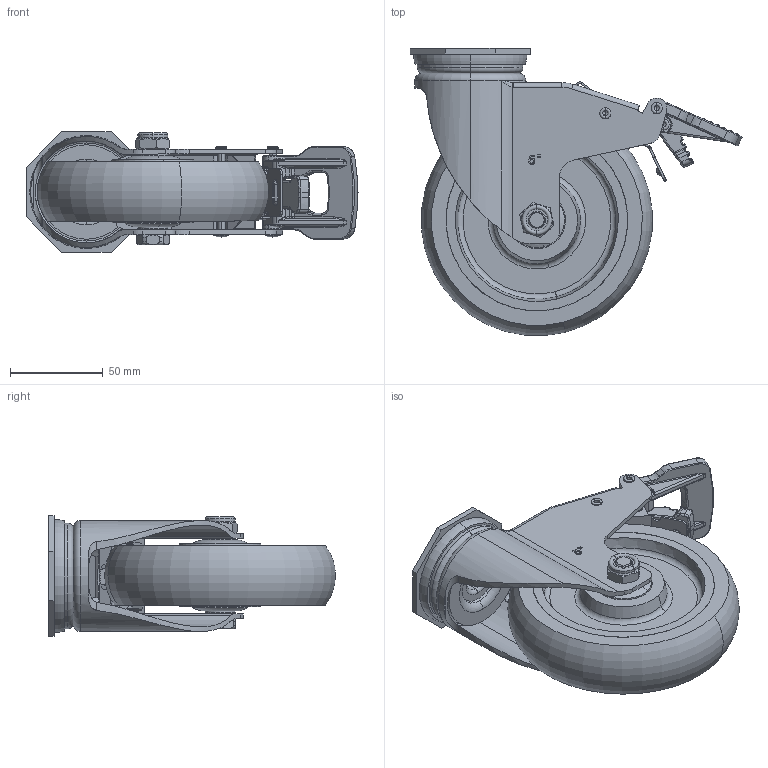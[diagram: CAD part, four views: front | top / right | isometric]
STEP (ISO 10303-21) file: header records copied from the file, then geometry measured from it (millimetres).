
FILE_DESCRIPTION (( 'STEP AP203' ), '1' );
FILE_NAME ('5寸孔顶万向刹车.STEP', '2024-03-19T03:40:52', ( '微软用户' ), ( '微软中国' ), 'SwSTEP 2.0', 'SolidWorks 2008', '' );
FILE_SCHEMA (( 'CONFIG_CONTROL_DESIGN' ));
Length unit declared in the file: millimetre
Products named in the file (13): 2023-3-8  中型5寸（AB刹）支架_默认; 3.9｡ﾁ49ﾎｲｿﾗｶ､_ﾄｬﾈﾏ; 解刹手柄OFF   B_默认; 3.9｡ﾁ39ﾎｲｿﾗｶ､_ﾄｬﾈﾏ; 5渡謂階勀砃价陬; 40.2mm中型中管_默认; M10-55蹟裝; M10蹟譫; 刹车手柄ON_默认; 3.9｡ﾁ30ﾎｲｿﾗｶ､_ﾄｬﾈﾏ; 2023-3-15  5寸刹车片_默认; 孔顶_默认; 中型5寸轮_默认
Assembly tree (13 placements, depth 2):
  5渡謂階勀砃价陬
    3.9｡ﾁ39ﾎｲｿﾗｶ､_ﾄｬﾈﾏ
    40.2mm中型中管_默认
    中型5寸轮_默认
    孔顶_默认
    M10蹟譫
    解刹手柄OFF   B_默认
    M10-55蹟裝
    3.9｡ﾁ49ﾎｲｿﾗｶ､_ﾄｬﾈﾏ  x2
    2023-3-8  中型5寸（AB刹）支架_默认
    刹车手柄ON_默认
    3.9｡ﾁ30ﾎｲｿﾗｶ､_ﾄｬﾈﾏ
    2023-3-15  5寸刹车片_默认
Bounding box: 179.28 x 154.93 x 65.01 mm (x, y, z)
Volume: 429658.1 mm3; surface area: 125061.4 mm2
Topology: 13 solids, 13 shells, 1325 faces, 3288 edges, 2010 vertices
Faces by surface type: cylinder 507, plane 352, bspline 296, torus 118, cone 38, sphere 14
Entity records: 53242 total; most frequent: CARTESIAN_POINT 23212, ORIENTED_EDGE 6434, DIRECTION 5406, EDGE_CURVE 3217, AXIS2_PLACEMENT_3D 2025, VERTEX_POINT 1988, EDGE_LOOP 1407, VECTOR 1356
